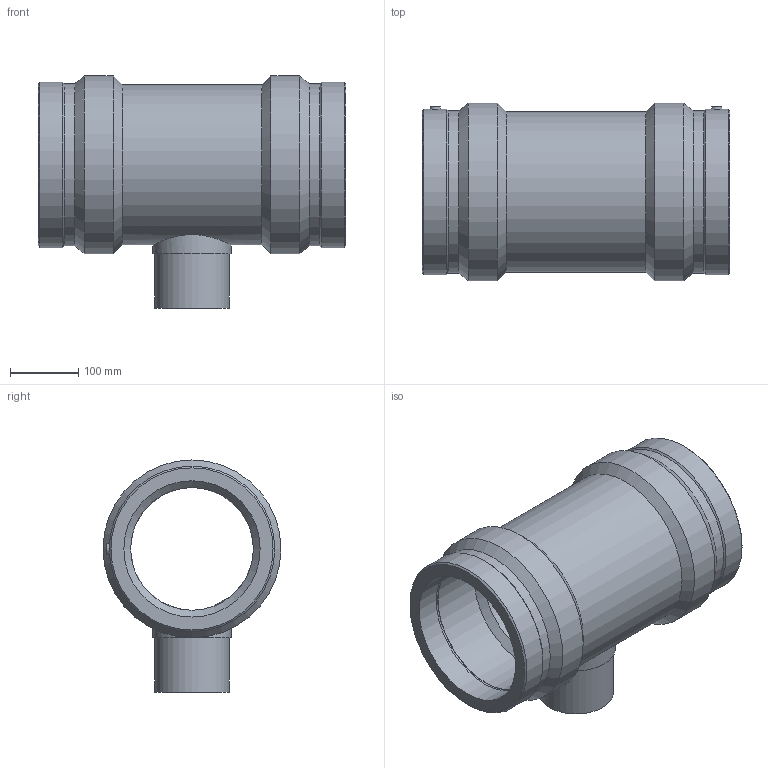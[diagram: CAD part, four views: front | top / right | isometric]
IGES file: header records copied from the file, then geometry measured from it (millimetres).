
Global section: file name: 491404200110.ipt; native system: Autodesk Inventor 2015; preprocessor: unknown; author: KIM; date: 20190909.112900; units: millimetre
Bounding box: 451 x 261 x 340.5 mm (x, y, z)
Volume: 8228542.9 mm3; surface area: 721793.8 mm2
Topology: 1 solids, 1 shells, 45 faces, 101 edges, 66 vertices
Faces by surface type: plane 12, revolution 12, cylinder 11, cone 10
Full cylindrical faces by diameter (mm): 4 x2, 110 x1, 115.5 x1, 234.9 x1, 237.875 x2, 242.73 x2, 261 x2
